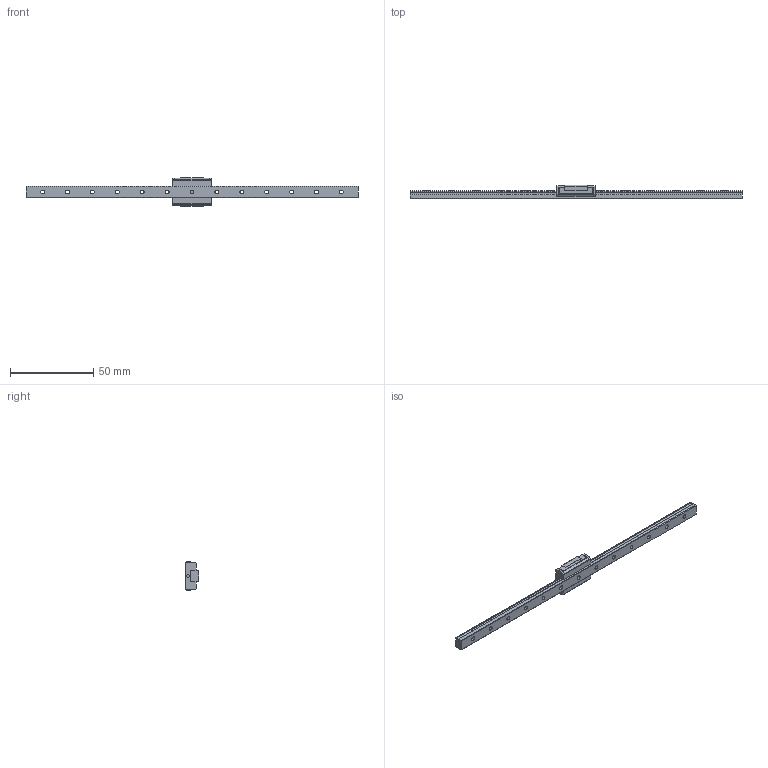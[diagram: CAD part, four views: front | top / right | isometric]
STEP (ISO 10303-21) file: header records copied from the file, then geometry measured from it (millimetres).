
FILE_DESCRIPTION( ( '' ), '1' );
FILE_NAME( 'C:/Users/v3-771-32344/Documents/Website 2016/STEP/SRS7M1UU20010088.3000.stp', '2016-11-10T13:08:17', ( '' ), ( '' ), ' ', ' ', ' ' );
FILE_SCHEMA( ( 'CONFIG_CONTROL_DESIGN' ) );
Length unit declared in the file: millimetre
Products named in the file (2): 1; 2
Bounding box: 200 x 8 x 17 mm (x, y, z)
Volume: 7781.4 mm3; surface area: 6744.5 mm2
Topology: 2 solids, 2 shells, 175 faces, 452 edges, 292 vertices
Faces by surface type: cylinder 84, plane 75, cone 16
Entity records: 5458 total; most frequent: DIRECTION 974, CARTESIAN_POINT 913, ORIENTED_EDGE 888, EDGE_CURVE 444, AXIS2_PLACEMENT_3D 353, VERTEX_POINT 292, LINE 268, VECTOR 268
